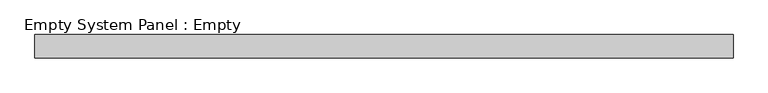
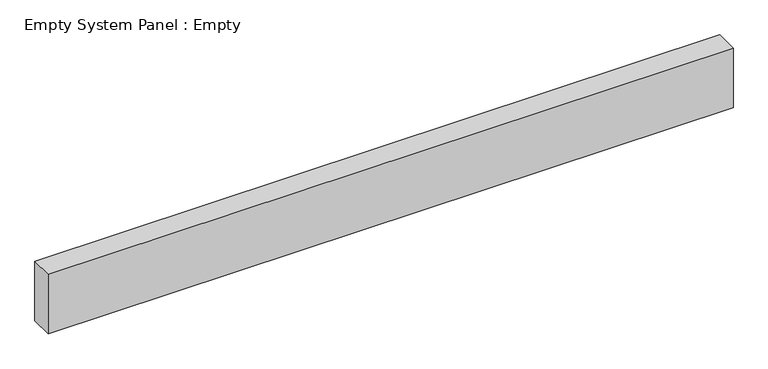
"""IFC4 building model written with IfcOpenShell, lengths in millimetres: plate geometry, Empty System Panel : Empty."""

from ifc_helpers import new_model, si_unit, origin, origin_with_axes, place, context, project, spatial, polyline, outline, extrude, source, transform, mapped, element, save


def empty_system_panel_empty_3beb369f(model_context):
    return source(origin(), model_context, "Body", "SweptSolid", [
        extrude(outline(polyline([(1500.0, -50.0), (-1500.0, -50.0), (-1500.0, 50.0), (1500.0, 50.0), (1500.0, -50.0)])), origin_with_axes(), (0.0, 0.0, 1.0), 276.0),
    ])


if __name__ == "__main__":
    model = new_model("IFC4")
    model_context = context("Model", 3, world=origin())
    ifc_project = project(units=[si_unit("LENGTHUNIT", "METRE", prefix="MILLI")], contexts=[model_context])
    site = spatial("IfcSite", under=ifc_project)
    building = spatial("IfcBuilding", under=site)
    placement = place(None, origin())
    empty_system_panel_empty_shape = empty_system_panel_empty_3beb369f(model_context)
    element("IfcPlate", 1, ObjectType="Empty System Panel : Empty", at=placement, inside=building, context=model_context, shape_type="MappedRepresentation", body=[
        mapped(empty_system_panel_empty_shape, transform((0.0, 0.0, 0.0), x_axis=(1.0, 0.0, 0.0), y_axis=(0.0, 1.0, 0.0), z_axis=(0.0, 0.0, 1.0))),
    ])
    save(model, "model.ifc")
